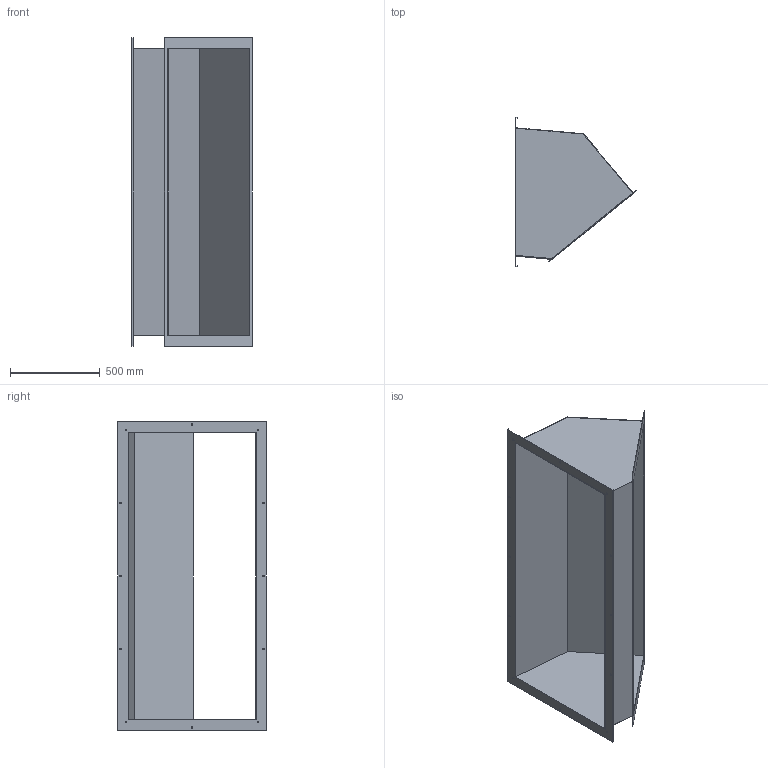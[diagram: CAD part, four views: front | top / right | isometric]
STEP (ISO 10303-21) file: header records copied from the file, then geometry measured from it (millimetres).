
FILE_DESCRIPTION(/* description */ ('STEP AP203'),/* implementation_level */ '2;1');
FILE_NAME(/* name */ 'Z:\Output\AIR1-AAHA_RH_15000-06612-001.stp',/* time_stamp */ '2020-06-16T10:35:20+02:00',/* author */ (''),/* organization */ (''),/* preprocessor_version */ 'ST-DEVELOPER v17.2',/* originating_system */ 'Autodesk Inventor 2019',/* authorisation */ '');
FILE_SCHEMA (('AUTOMOTIVE_DESIGN { 1 0 10303 214 3 1 1 }'));
Length unit declared in the file: millimetre
Products named in the file (1): AIR1-AAHA-XH-RH
Bounding box: 675 x 830 x 1720 mm (x, y, z)
Volume: 5497516.3 mm3; surface area: 5517820 mm2
Topology: 1 solids, 1 shells, 38 faces, 102 edges, 68 vertices
Faces by surface type: plane 26, cylinder 12
Full cylindrical faces by diameter (mm): 9 x12
Entity records: 1283 total; most frequent: CARTESIAN_POINT 209, ORIENTED_EDGE 204, DIRECTION 204, EDGE_CURVE 102, LINE 78, VECTOR 78, VERTEX_POINT 68, EDGE_LOOP 66
